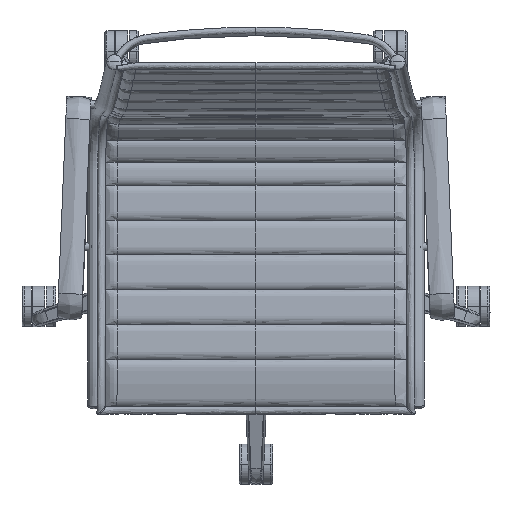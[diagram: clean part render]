
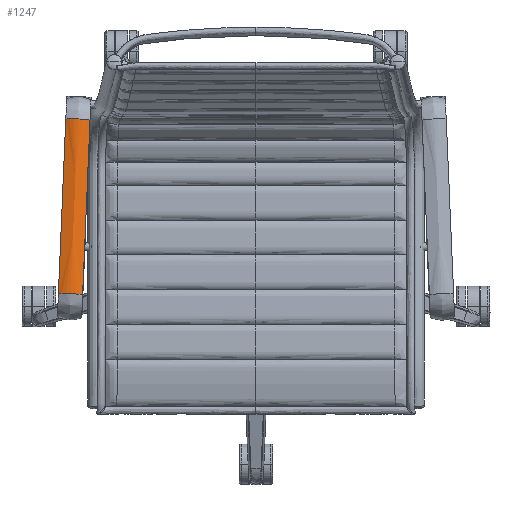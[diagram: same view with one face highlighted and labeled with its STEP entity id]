
A CAD part, top view. The second image highlights one B-rep face of the part: STEP entity #1247.
In plain terms, the highlighted free-form (B-spline) face has degree [2, 3] with [3, 4] control points.
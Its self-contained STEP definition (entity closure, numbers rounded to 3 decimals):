
#1247=ADVANCED_FACE('',(#1804),#8035,.T.);
#1804=FACE_OUTER_BOUND('',#2364,.T.);
#2364=EDGE_LOOP('',(#3458,#3459,#3460,#3461));
#3458=ORIENTED_EDGE('',*,*,#5585,.T.);
#3459=ORIENTED_EDGE('',*,*,#5589,.F.);
#3460=ORIENTED_EDGE('',*,*,#5588,.F.);
#3461=ORIENTED_EDGE('',*,*,#5587,.F.);
#5585=EDGE_CURVE('',#7408,#7409,#6662,.T.);
#5587=EDGE_CURVE('',#7408,#7410,#6664,.T.);
#5588=EDGE_CURVE('',#7410,#7411,#6665,.T.);
#5589=EDGE_CURVE('',#7411,#7409,#6666,.T.);
#6662=(
BOUNDED_CURVE()
B_SPLINE_CURVE(2,(#24892,#24893,#24894),.UNSPECIFIED.,.F.,.F.)
B_SPLINE_CURVE_WITH_KNOTS((3,3),(0.,37.482),.UNSPECIFIED.)
CURVE()
GEOMETRIC_REPRESENTATION_ITEM()
RATIONAL_B_SPLINE_CURVE((1.,0.882,1.))
REPRESENTATION_ITEM('')
);
#6664=(
BOUNDED_CURVE()
B_SPLINE_CURVE(3,(#24906,#24907,#24908,#24909),.UNSPECIFIED.,.F.,.F.)
B_SPLINE_CURVE_WITH_KNOTS((4,4),(0.,260.717),.UNSPECIFIED.)
CURVE()
GEOMETRIC_REPRESENTATION_ITEM()
RATIONAL_B_SPLINE_CURVE((1.,1.,1.,1.))
REPRESENTATION_ITEM('')
);
#6665=(
BOUNDED_CURVE()
B_SPLINE_CURVE(2,(#24910,#24911,#24912),.UNSPECIFIED.,.F.,.F.)
B_SPLINE_CURVE_WITH_KNOTS((3,3),(0.,37.482),.UNSPECIFIED.)
CURVE()
GEOMETRIC_REPRESENTATION_ITEM()
RATIONAL_B_SPLINE_CURVE((1.,0.882,1.))
REPRESENTATION_ITEM('')
);
#6666=(
BOUNDED_CURVE()
B_SPLINE_CURVE(3,(#24913,#24914,#24915,#24916),.UNSPECIFIED.,.F.,.F.)
B_SPLINE_CURVE_WITH_KNOTS((4,4),(-260.717,0.),.UNSPECIFIED.)
CURVE()
GEOMETRIC_REPRESENTATION_ITEM()
RATIONAL_B_SPLINE_CURVE((1.,1.,1.,1.))
REPRESENTATION_ITEM('')
);
#7408=VERTEX_POINT('',#24664);
#7409=VERTEX_POINT('',#24665);
#7410=VERTEX_POINT('',#24666);
#7411=VERTEX_POINT('',#24667);
#8035=(
BOUNDED_SURFACE()
B_SPLINE_SURFACE(2,3,((#24396,#24397,#24398,#24399),(#24400,#24401,#24402,
#24403),(#24404,#24405,#24406,#24407)),.UNSPECIFIED.,.F.,.F.,.F.)
B_SPLINE_SURFACE_WITH_KNOTS((3,3),(4,4),(0.,37.482),(0.,260.717),
 .UNSPECIFIED.)
GEOMETRIC_REPRESENTATION_ITEM()
RATIONAL_B_SPLINE_SURFACE(((1.,1.,1.,1.),(0.882,0.882,
0.882,0.882),(1.,1.,1.,1.)))
REPRESENTATION_ITEM('')
SURFACE()
);
#24396=CARTESIAN_POINT('',(-293.384,-68.132,687.235));
#24397=CARTESIAN_POINT('',(-289.712,18.366,679.67));
#24398=CARTESIAN_POINT('',(-286.041,104.864,672.105));
#24399=CARTESIAN_POINT('',(-282.369,191.362,664.541));
#24400=CARTESIAN_POINT('',(-275.382,-68.057,696.832));
#24401=CARTESIAN_POINT('',(-271.711,18.441,689.267));
#24402=CARTESIAN_POINT('',(-268.039,104.939,681.702));
#24403=CARTESIAN_POINT('',(-264.367,191.437,674.137));
#24404=CARTESIAN_POINT('',(-257.416,-69.653,687.301));
#24405=CARTESIAN_POINT('',(-253.744,16.845,679.737));
#24406=CARTESIAN_POINT('',(-250.073,103.343,672.172));
#24407=CARTESIAN_POINT('',(-246.401,189.841,664.607));
#24664=CARTESIAN_POINT('',(-293.384,-68.132,687.235));
#24665=CARTESIAN_POINT('',(-257.416,-69.653,687.301));
#24666=CARTESIAN_POINT('',(-282.369,191.362,664.541));
#24667=CARTESIAN_POINT('',(-246.401,189.841,664.607));
#24892=CARTESIAN_POINT('',(-293.384,-68.132,687.235));
#24893=CARTESIAN_POINT('',(-275.382,-68.057,696.832));
#24894=CARTESIAN_POINT('',(-257.416,-69.653,687.301));
#24906=CARTESIAN_POINT('',(-293.384,-68.132,687.235));
#24907=CARTESIAN_POINT('',(-289.712,18.366,679.67));
#24908=CARTESIAN_POINT('',(-286.041,104.864,672.105));
#24909=CARTESIAN_POINT('',(-282.369,191.362,664.541));
#24910=CARTESIAN_POINT('',(-282.369,191.362,664.541));
#24911=CARTESIAN_POINT('',(-264.367,191.437,674.137));
#24912=CARTESIAN_POINT('',(-246.401,189.841,664.607));
#24913=CARTESIAN_POINT('',(-246.401,189.841,664.607));
#24914=CARTESIAN_POINT('',(-250.073,103.343,672.172));
#24915=CARTESIAN_POINT('',(-253.744,16.845,679.737));
#24916=CARTESIAN_POINT('',(-257.416,-69.653,687.301));
